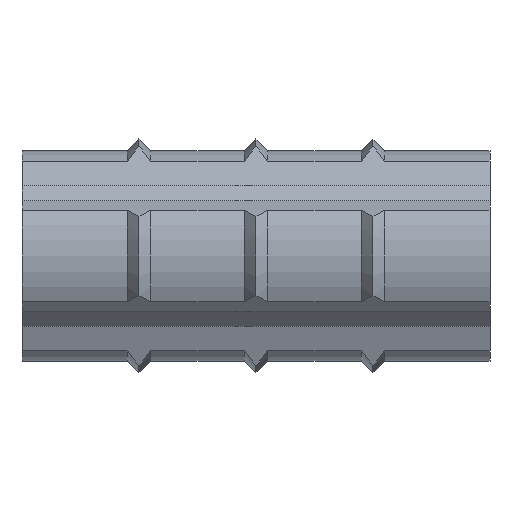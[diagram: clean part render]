
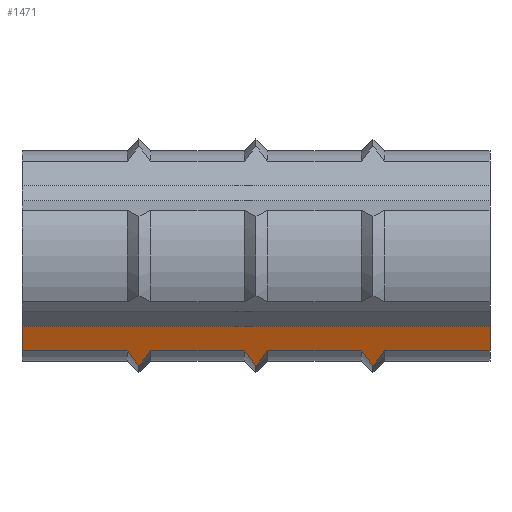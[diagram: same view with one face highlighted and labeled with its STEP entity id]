
A CAD part, left-side view. The second image highlights one B-rep face of the part: STEP entity #1471.
In plain terms, the highlighted planar face has unit normal (-0.93, 0, -0.367).
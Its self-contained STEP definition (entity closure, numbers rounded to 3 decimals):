
#26=PLANE('',#1605);
#54=LINE('',#2435,#158);
#56=LINE('',#2441,#160);
#58=LINE('',#2444,#162);
#87=LINE('',#2503,#191);
#88=LINE('',#2507,#192);
#89=LINE('',#2509,#193);
#90=LINE('',#2511,#194);
#158=VECTOR('',#1823,1000.);
#160=VECTOR('',#1829,1000.);
#162=VECTOR('',#1833,1000.);
#191=VECTOR('',#1892,1000.);
#192=VECTOR('',#1897,1000.);
#193=VECTOR('',#1898,1000.);
#194=VECTOR('',#1899,1000.);
#574=ORIENTED_EDGE('',*,*,#951,.T.);
#575=ORIENTED_EDGE('',*,*,#952,.F.);
#576=ORIENTED_EDGE('',*,*,#953,.F.);
#577=ORIENTED_EDGE('',*,*,#912,.T.);
#578=ORIENTED_EDGE('',*,*,#878,.T.);
#579=ORIENTED_EDGE('',*,*,#892,.T.);
#580=ORIENTED_EDGE('',*,*,#915,.T.);
#581=ORIENTED_EDGE('',*,*,#850,.T.);
#582=ORIENTED_EDGE('',*,*,#864,.T.);
#583=ORIENTED_EDGE('',*,*,#917,.T.);
#584=ORIENTED_EDGE('',*,*,#822,.T.);
#585=ORIENTED_EDGE('',*,*,#836,.T.);
#586=ORIENTED_EDGE('',*,*,#949,.T.);
#822=EDGE_CURVE('',#1050,#1051,#1198,.T.);
#836=EDGE_CURVE('',#1051,#1062,#1206,.T.);
#850=EDGE_CURVE('',#1074,#1075,#1214,.T.);
#864=EDGE_CURVE('',#1075,#1086,#1222,.T.);
#878=EDGE_CURVE('',#1098,#1099,#1230,.T.);
#892=EDGE_CURVE('',#1099,#1110,#1238,.T.);
#912=EDGE_CURVE('',#1118,#1098,#54,.T.);
#915=EDGE_CURVE('',#1110,#1074,#56,.T.);
#917=EDGE_CURVE('',#1086,#1050,#58,.T.);
#949=EDGE_CURVE('',#1062,#1135,#87,.T.);
#951=EDGE_CURVE('',#1135,#1136,#88,.T.);
#952=EDGE_CURVE('',#1137,#1136,#89,.T.);
#953=EDGE_CURVE('',#1118,#1137,#90,.T.);
#1050=VERTEX_POINT('',#2121);
#1051=VERTEX_POINT('',#2122);
#1062=VERTEX_POINT('',#2175);
#1074=VERTEX_POINT('',#2229);
#1075=VERTEX_POINT('',#2230);
#1086=VERTEX_POINT('',#2283);
#1098=VERTEX_POINT('',#2337);
#1099=VERTEX_POINT('',#2338);
#1110=VERTEX_POINT('',#2391);
#1118=VERTEX_POINT('',#2436);
#1135=VERTEX_POINT('',#2504);
#1136=VERTEX_POINT('',#2508);
#1137=VERTEX_POINT('',#2510);
#1198=B_SPLINE_CURVE_WITH_KNOTS('',3,(#2117,#2118,#2119,#2120),
 .UNSPECIFIED.,.F.,.F.,(4,4),(0.,0.001),
 .UNSPECIFIED.);
#1206=B_SPLINE_CURVE_WITH_KNOTS('',3,(#2171,#2172,#2173,#2174),
 .UNSPECIFIED.,.F.,.F.,(4,4),(0.,0.001),
 .UNSPECIFIED.);
#1214=B_SPLINE_CURVE_WITH_KNOTS('',3,(#2225,#2226,#2227,#2228),
 .UNSPECIFIED.,.F.,.F.,(4,4),(0.,0.001),
 .UNSPECIFIED.);
#1222=B_SPLINE_CURVE_WITH_KNOTS('',3,(#2279,#2280,#2281,#2282),
 .UNSPECIFIED.,.F.,.F.,(4,4),(0.,0.001),
 .UNSPECIFIED.);
#1230=B_SPLINE_CURVE_WITH_KNOTS('',3,(#2333,#2334,#2335,#2336),
 .UNSPECIFIED.,.F.,.F.,(4,4),(0.,0.001),
 .UNSPECIFIED.);
#1238=B_SPLINE_CURVE_WITH_KNOTS('',3,(#2387,#2388,#2389,#2390),
 .UNSPECIFIED.,.F.,.F.,(4,4),(0.,0.001),
 .UNSPECIFIED.);
#1287=EDGE_LOOP('',(#574,#575,#576,#577,#578,#579,#580,#581,#582,#583,#584,
#585,#586));
#1367=FACE_BOUND('',#1287,.T.);
#1471=ADVANCED_FACE('',(#1367),#26,.F.);
#1605=AXIS2_PLACEMENT_3D('',#2506,#1895,#1896);
#1823=DIRECTION('',(0.,-1.,0.));
#1829=DIRECTION('',(0.,-1.,0.));
#1833=DIRECTION('',(0.,-1.,0.));
#1892=DIRECTION('',(0.,-1.,0.));
#1895=DIRECTION('',(0.93,0.,0.367));
#1896=DIRECTION('',(0.367,0.,-0.93));
#1897=DIRECTION('',(-0.367,0.,0.93));
#1898=DIRECTION('',(0.,-1.,0.));
#1899=DIRECTION('',(-0.367,0.,0.93));
#2117=CARTESIAN_POINT('',(-1.562,4.4,-3.243));
#2118=CARTESIAN_POINT('',(-1.493,4.271,-3.419));
#2119=CARTESIAN_POINT('',(-1.425,4.137,-3.592));
#2120=CARTESIAN_POINT('',(-1.358,4.,-3.762));
#2121=CARTESIAN_POINT('',(-1.562,4.4,-3.243));
#2122=CARTESIAN_POINT('',(-1.358,4.,-3.762));
#2171=CARTESIAN_POINT('',(-1.358,4.,-3.762));
#2172=CARTESIAN_POINT('',(-1.425,3.863,-3.592));
#2173=CARTESIAN_POINT('',(-1.493,3.729,-3.419));
#2174=CARTESIAN_POINT('',(-1.562,3.6,-3.243));
#2175=CARTESIAN_POINT('',(-1.562,3.6,-3.243));
#2225=CARTESIAN_POINT('',(-1.562,8.4,-3.243));
#2226=CARTESIAN_POINT('',(-1.493,8.271,-3.419));
#2227=CARTESIAN_POINT('',(-1.425,8.137,-3.592));
#2228=CARTESIAN_POINT('',(-1.358,8.,-3.762));
#2229=CARTESIAN_POINT('',(-1.562,8.4,-3.243));
#2230=CARTESIAN_POINT('',(-1.358,8.,-3.762));
#2279=CARTESIAN_POINT('',(-1.358,8.,-3.762));
#2280=CARTESIAN_POINT('',(-1.425,7.863,-3.592));
#2281=CARTESIAN_POINT('',(-1.493,7.729,-3.419));
#2282=CARTESIAN_POINT('',(-1.562,7.6,-3.243));
#2283=CARTESIAN_POINT('',(-1.562,7.6,-3.243));
#2333=CARTESIAN_POINT('',(-1.562,12.4,-3.243));
#2334=CARTESIAN_POINT('',(-1.493,12.271,-3.419));
#2335=CARTESIAN_POINT('',(-1.425,12.137,-3.592));
#2336=CARTESIAN_POINT('',(-1.358,12.,-3.762));
#2337=CARTESIAN_POINT('',(-1.562,12.4,-3.243));
#2338=CARTESIAN_POINT('',(-1.358,12.,-3.762));
#2387=CARTESIAN_POINT('',(-1.358,12.,-3.762));
#2388=CARTESIAN_POINT('',(-1.425,11.863,-3.592));
#2389=CARTESIAN_POINT('',(-1.493,11.729,-3.419));
#2390=CARTESIAN_POINT('',(-1.562,11.6,-3.243));
#2391=CARTESIAN_POINT('',(-1.562,11.6,-3.243));
#2435=CARTESIAN_POINT('',(-1.562,16.,-3.243));
#2436=CARTESIAN_POINT('',(-1.562,16.,-3.243));
#2441=CARTESIAN_POINT('',(-1.562,16.,-3.243));
#2444=CARTESIAN_POINT('',(-1.562,16.,-3.243));
#2503=CARTESIAN_POINT('',(-1.562,16.,-3.243));
#2504=CARTESIAN_POINT('',(-1.562,0.,-3.243));
#2506=CARTESIAN_POINT('',(-1.562,16.,-3.243));
#2507=CARTESIAN_POINT('',(-1.562,0.,-3.243));
#2508=CARTESIAN_POINT('',(-1.894,0.,-2.403));
#2509=CARTESIAN_POINT('',(-1.894,16.,-2.403));
#2510=CARTESIAN_POINT('',(-1.894,16.,-2.403));
#2511=CARTESIAN_POINT('',(-1.562,16.,-3.243));
